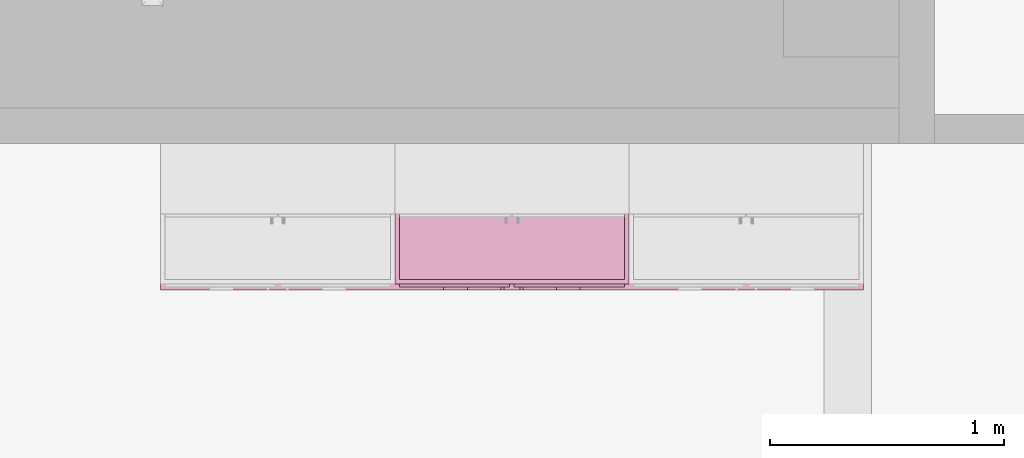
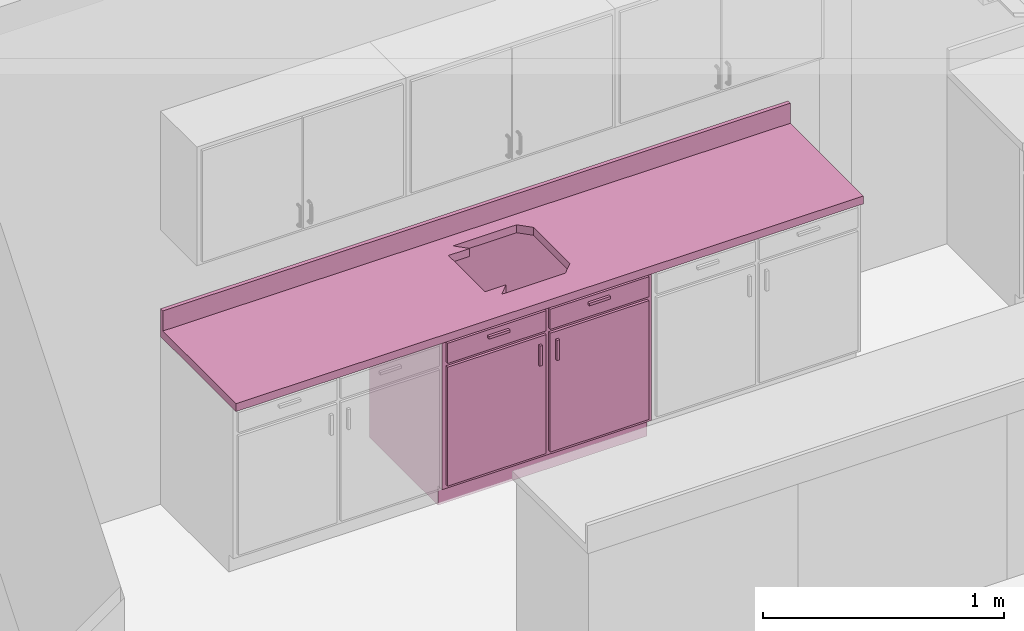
# One storey, part 10 of 18: 2 furnishings, 1 opening.
"""IFC4 building model written with IfcOpenShell, lengths in metres."""

from ifc_helpers import new_model, entity, si_unit, converted_unit, frame, frame_2d, origin, place, context, project, spatial, polyline, circle_curve, parameter, trimmed, segment, composite_curve, outline, extrude, face_set, surface_model, source, transform, mapped, type_object, type_shapes, element, save


model = new_model("IFC4")

# Units and contexts
model_context = context("Model", 3, precision=1e-09, world=origin())
plan_context = context("Plan", 3, precision=1e-09, world=origin())
ifc_project = project(units=[si_unit("LENGTHUNIT", "METRE"), si_unit("AREAUNIT", "SQUARE_METRE"), si_unit("VOLUMEUNIT", "CUBIC_METRE"), converted_unit("PLANEANGLEUNIT", "DEGREE", entity("IfcRatioMeasure", 0.01745329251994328), si_unit("PLANEANGLEUNIT", "RADIAN"), dimensions=[0, 0, 0, 0, 0, 0, 0]), si_unit("TIMEUNIT", "SECOND")], contexts=[model_context, plan_context])

# Site, building, storey, space
site_placement = place(None, origin())
site = spatial("IfcSite", under=ifc_project, at=site_placement, Name="Default", CompositionType="ELEMENT")
building_placement = place(site_placement, origin())
building = spatial("IfcBuilding", under=site, at=building_placement, CompositionType="ELEMENT")
storey_placement = place(building_placement, origin())
storey = spatial("IfcBuildingStorey", under=building, at=storey_placement, Name="Level 1", CompositionType="ELEMENT", Elevation=0.0)
space_placement = place(storey_placement, origin())
space = spatial("IfcSpace", under=storey, at=space_placement, Name="A103", CompositionType="ELEMENT", PredefinedType="SPACE")

# Furnishing
furniture_type_1 = type_object("IfcFurnitureType", Name="1000mm", AssemblyPlace="NOTDEFINED")
shared_shape_1 = source(origin(), model_context, "Body", "SurfaceModel", [
    surface_model("IfcFaceBasedSurfaceModel", [(0.9809499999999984, 0.04445000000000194, 0.8600000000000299), (0.9809499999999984, 0.04445000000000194, 0.0999999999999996), (0.01905000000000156, 0.04445000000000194, 0.0999999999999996), (0.01905000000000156, 0.04445000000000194, 0.8600000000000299), (1.0, 0.02540000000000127, 0.8600000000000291), (0.0, 0.02540000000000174, 0.8600000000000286), (1.0, 0.02540000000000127, 0.0999999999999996), (0.0, 0.02540000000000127, 0.09999999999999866), (0.01905000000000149, 0.606349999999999, 0.8600000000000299), (0.01905000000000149, 0.606349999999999, 0.09999999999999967), (0.01905000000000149, 0.06040000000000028, 0.0999999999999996), (0.0, 0.6253999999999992, 0.8600000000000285), (0.0, 0.6254000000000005, 0.0), (0.0, 0.06040000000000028, 0.0), (0.0, 0.06040000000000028, 0.09999999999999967), (0.9809499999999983, 0.6063499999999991, 0.8600000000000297), (0.9809499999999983, 0.6063499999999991, 0.09999999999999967), (1.0, 0.6253999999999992, 0.8600000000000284), (1.0, 0.6253999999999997, 0.0), (0.9809499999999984, 0.06040000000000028, 0.09999999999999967), (1.0, 0.06040000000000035, 0.09999999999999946), (1.0, 0.06040000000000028, 0.0), (0.3103250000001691, 0.0, 0.815550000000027), (0.3103250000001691, 0.0, 0.8028500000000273), (0.2087250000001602, 0.0, 0.8028500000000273), (0.2087250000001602, 0.0, 0.815550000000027), (0.7912750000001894, 0.0, 0.815550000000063), (0.7912750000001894, 0.0, 0.8028500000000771), (0.6896750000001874, 0.0, 0.8028500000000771), (0.6896750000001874, 0.0, 0.815550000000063), (0.4650750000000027, 0.0, 0.6822000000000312), (0.4650750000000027, 0.0, 0.5806000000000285), (0.4523750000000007, 0.0, 0.5806000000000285), (0.4523750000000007, 0.0, 0.6822000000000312), (0.5476249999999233, 0.0, 0.6822000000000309), (0.5476249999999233, 0.0, 0.5806000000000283), (0.5349249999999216, 0.0, 0.5806000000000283), (0.5349249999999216, 0.0, 0.6822000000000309), (0.3103250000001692, 0.01270000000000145, 0.815550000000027), (0.3103250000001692, 0.01270000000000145, 0.8028500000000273), (0.2087250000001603, 0.01270000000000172, 0.8028500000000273), (0.2087250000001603, 0.01270000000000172, 0.815550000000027), (0.7912750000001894, 0.01269999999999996, 0.815550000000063), (0.7912750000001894, 0.01269999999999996, 0.8028500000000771), (0.6896750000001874, 0.01270000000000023, 0.8028500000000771), (0.6896750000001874, 0.01270000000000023, 0.815550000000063), (0.4650750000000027, 0.0127000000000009, 0.6822000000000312), (0.4650750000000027, 0.0127000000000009, 0.5806000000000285), (0.4523750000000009, 0.0127000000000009, 0.5806000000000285), (0.4523750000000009, 0.0127000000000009, 0.6822000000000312), (0.5476249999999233, 0.01270000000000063, 0.6822000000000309), (0.5476249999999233, 0.01270000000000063, 0.5806000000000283), (0.5349249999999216, 0.01270000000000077, 0.5806000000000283), (0.5349249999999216, 0.01270000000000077, 0.6822000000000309), (0.4904749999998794, 0.0127000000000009, 0.840950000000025), (0.4904749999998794, 0.0127000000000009, 0.7393500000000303), (0.01905000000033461, 0.01270000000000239, 0.7393500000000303), (0.01905000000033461, 0.01270000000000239, 0.840950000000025), (0.9809500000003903, 0.01269999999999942, 0.8409500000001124), (0.9809500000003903, 0.01269999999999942, 0.7393500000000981), (0.509524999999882, 0.0127000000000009, 0.7393500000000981), (0.509524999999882, 0.0127000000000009, 0.8409500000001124), (0.4904749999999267, 0.0127000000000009, 0.7203000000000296), (0.4904749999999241, 0.0127000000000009, 0.119049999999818), (0.01905000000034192, 0.01270000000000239, 0.119049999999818), (0.01905000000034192, 0.01270000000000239, 0.7203000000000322), (0.9809500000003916, 0.01269999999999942, 0.7203000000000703), (0.9809500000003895, 0.01269999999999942, 0.1190499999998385), (0.5095249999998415, 0.0127000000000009, 0.1190499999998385), (0.5095249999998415, 0.0127000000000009, 0.7203000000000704), (0.4904749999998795, 0.02540000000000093, 0.840950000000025), (0.4904749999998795, 0.02540000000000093, 0.7393500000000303), (0.01905000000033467, 0.02540000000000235, 0.7393500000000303), (0.01905000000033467, 0.02540000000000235, 0.840950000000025), (0.9809500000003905, 0.02539999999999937, 0.8409500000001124), (0.9809500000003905, 0.02539999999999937, 0.7393500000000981), (0.5095249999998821, 0.02540000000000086, 0.7393500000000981), (0.5095249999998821, 0.02540000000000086, 0.8409500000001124), (0.4904749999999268, 0.02540000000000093, 0.7203000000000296), (0.4904749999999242, 0.02540000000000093, 0.119049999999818), (0.01905000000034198, 0.02540000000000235, 0.119049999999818), (0.01905000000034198, 0.02540000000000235, 0.7203000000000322), (0.9809500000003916, 0.02539999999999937, 0.7203000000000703), (0.9809500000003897, 0.02539999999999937, 0.1190499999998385), (0.5095249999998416, 0.02540000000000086, 0.1190499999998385), (0.5095249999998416, 0.02540000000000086, 0.7203000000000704), (0.9809499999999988, 0.6063499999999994, 0.1190499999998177), (0.9809499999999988, 0.04445000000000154, 0.1190499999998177), (0.01905000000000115, 0.04445000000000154, 0.1190499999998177), (0.01905000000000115, 0.6063499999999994, 0.1190499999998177), (0.9809499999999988, 0.6063499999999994, 0.09999999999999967), (0.9809499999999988, 0.04445000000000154, 0.09999999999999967), (0.01905000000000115, 0.04445000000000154, 0.09999999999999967), (0.01905000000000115, 0.6063499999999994, 0.09999999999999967)], [face_set([[[0, 1, 2, 3]], [[0, 4, 5, 3]], [[4, 6, 7, 5]], [[2, 1, 6, 7]], [[3, 8, 9, 10, 2]], [[5, 11, 8, 3]], [[7, 5, 11, 12, 13, 14]], [[2, 7, 14, 10]], [[8, 15, 16, 9]], [[11, 17, 15, 8]], [[12, 11, 17, 18]], [[1, 19, 16, 15, 0]], [[0, 15, 17, 4]], [[4, 6, 20, 21, 18, 17]], [[6, 1, 19, 20]], [[10, 9, 16, 19]], [[18, 21, 13, 12]], [[13, 14, 10, 19, 20, 21]]]), face_set([[[22, 23, 24, 25]], [[26, 27, 28, 29]], [[30, 31, 32, 33]], [[34, 35, 36, 37]], [[38, 39, 40, 41]], [[42, 43, 44, 45]], [[46, 47, 48, 49]], [[50, 51, 52, 53]], [[25, 41, 38, 22]], [[24, 40, 41, 25]], [[23, 24, 40, 39]], [[22, 23, 39, 38]], [[29, 45, 42, 26]], [[28, 44, 45, 29]], [[27, 28, 44, 43]], [[26, 27, 43, 42]], [[33, 49, 46, 30]], [[32, 48, 49, 33]], [[31, 32, 48, 47]], [[30, 31, 47, 46]], [[37, 53, 50, 34]], [[36, 52, 53, 37]], [[35, 36, 52, 51]], [[34, 35, 51, 50]]]), face_set([[[54, 55, 56, 57]], [[58, 59, 60, 61]], [[62, 63, 64, 65]], [[66, 67, 68, 69]], [[70, 71, 72, 73]], [[74, 75, 76, 77]], [[78, 79, 80, 81]], [[82, 83, 84, 85]], [[57, 73, 70, 54]], [[56, 57, 73, 72]], [[55, 56, 72, 71]], [[54, 55, 71, 70]], [[61, 77, 74, 58]], [[60, 76, 77, 61]], [[59, 60, 76, 75]], [[58, 59, 75, 74]], [[65, 81, 78, 62]], [[64, 65, 81, 80]], [[63, 64, 80, 79]], [[62, 63, 79, 78]], [[69, 85, 82, 66]], [[68, 84, 85, 69]], [[67, 68, 84, 83]], [[66, 67, 83, 82]]]), face_set([[[86, 87, 88, 89]], [[90, 91, 92, 93]], [[89, 86, 90, 93]], [[88, 89, 93, 92]], [[87, 91, 92, 88]], [[86, 87, 91, 90]]])]),
])
type_shapes(furniture_type_1, [shared_shape_1])
furnishing_1_placement = place(space_placement, frame((2.465999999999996, -10.99540000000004, 0.0)))
element("IfcFurnishingElement", 1, at=furnishing_1_placement, inside=space, type_object=furniture_type_1, Name="M_Base Cabinet-Double Door & 2 Drawer:1000mm:1000mm", ObjectType="1000mm", context=model_context, shape_type="MappedRepresentation", body=[
    mapped(shared_shape_1, transform((0.0, 0.0, 0.0), scale=1.0)),
])

# Furnishing, opening
furniture_type_2 = type_object("IfcFurnitureType", Name="600mm Depth", AssemblyPlace="NOTDEFINED")
shared_shape_2 = source(origin(), model_context, "Body", "SweptSolid", [
    extrude(outline(polyline([(-0.0605333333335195, -0.2146833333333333), (0.08106666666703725, -0.2146833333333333), (0.08106666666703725, -0.1956333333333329), (-0.02053333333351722, -0.1956333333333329), (-0.02053333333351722, 0.4103166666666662), (-0.0605333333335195, 0.4103166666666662), (-0.0605333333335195, -0.2146833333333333)])), frame((-1.200462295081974, -0.2146833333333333, 0.920533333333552), z_axis=(1.0, 0.0, 0.0), x_axis=(0.0, 0.0, 1.0)), (0.0, 0.0, 1.0), 3.0),
])
type_shapes(furniture_type_2, [shared_shape_2])
furnishing_2_placement = place(space_placement, frame((2.666562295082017, -10.37000000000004, 0.0)))
furnishing_2 = element("IfcFurnishingElement", 2, at=furnishing_2_placement, inside=space, type_object=furniture_type_2, Name="M_Counter Top w Sink Hole:600mm Depth:600mm Depth", ObjectType="600mm Depth", context=model_context, shape_type="MappedRepresentation", body=[
    mapped(shared_shape_2, transform((0.0, 0.0, 0.0), scale=1.0)),
])
opening_placement = place(space_placement, frame((2.666562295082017, -10.37000000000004, 0.0)))
element("IfcOpeningElement", 3, at=opening_placement, cuts=furnishing_2, Name="M_Counter Top w Sink Hole:600mm Depth:600mm Depth:1", ObjectType="Opening", context=model_context, shape_type="SweptSolid", body=[
    extrude(outline(composite_curve([segment(polyline([(-0.1523000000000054, -0.2017000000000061), (0.1523000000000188, -0.2017000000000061)]), True, "CONTINUOUS"), segment(trimmed(circle_curve(frame_2d((0.1523000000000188, -0.1509000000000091), x_axis=(-1.0, 0.0)), 0.05079999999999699), [parameter(92.33515524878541)], [parameter(92.33515524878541)], True, "PARAMETER"), True, "CONTINUOUS"), segment(polyline([(0.2031000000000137, -0.1509000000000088), (0.203100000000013, 0.1509000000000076)]), True, "CONTINUOUS"), segment(trimmed(circle_curve(frame_2d((0.1523000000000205, 0.1509000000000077), x_axis=(-1.0, 0.0)), 0.0507999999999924), [parameter(92.33515524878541)], [parameter(92.33515524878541)], True, "PARAMETER"), True, "CONTINUOUS"), segment(polyline([(0.1523000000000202, 0.2016999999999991), (-0.1523000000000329, 0.2016999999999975)]), True, "CONTINUOUS"), segment(trimmed(circle_curve(frame_2d((-0.1523000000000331, 0.1509000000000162), x_axis=(-1.0, 0.0)), 0.05079999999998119), [parameter(92.33515524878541)], [parameter(92.33515524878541)], True, "PARAMETER"), True, "CONTINUOUS"), segment(polyline([(-0.2031000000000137, 0.1509000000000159), (-0.2031000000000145, -0.1508999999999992)]), True, "CONTINUOUS"), segment(trimmed(circle_curve(frame_2d((-0.1523000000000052, -0.1508999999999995), x_axis=(-1.0, 0.0)), 0.05080000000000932), [parameter(92.33515524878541)], [parameter(92.33515524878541)], True, "PARAMETER"), True, "CONTINUOUS")], self_intersect=False)), frame((0.2995377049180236, -0.289000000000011, 0.8600000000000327), z_axis=(0.0, 0.0, 1.0), x_axis=(-1.0, 0.0, 0.0)), (0.0, 0.0, 1.0), 0.04000000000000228),
])

save(model, "model.ifc")
